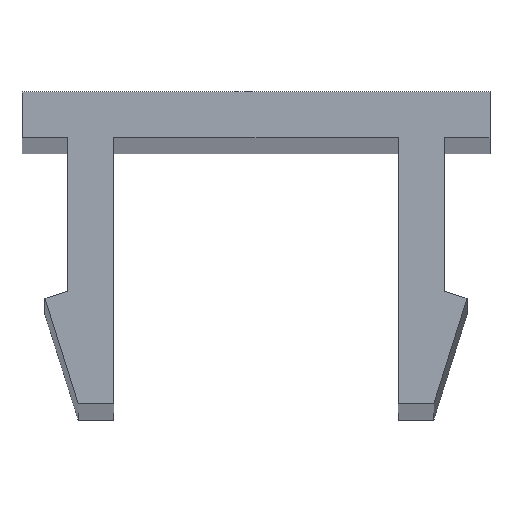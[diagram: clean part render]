
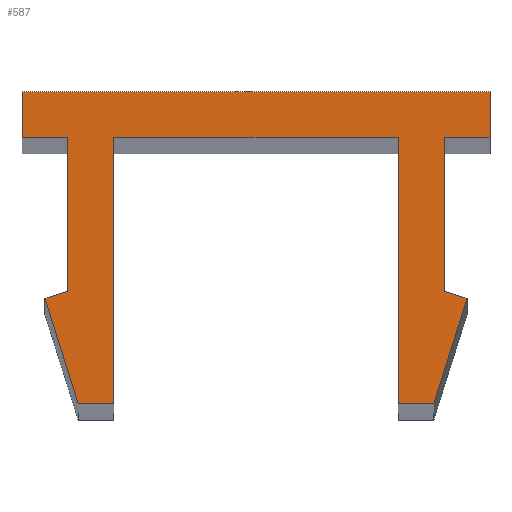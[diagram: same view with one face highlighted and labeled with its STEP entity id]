
A CAD part, top view. The second image highlights one B-rep face of the part: STEP entity #587.
In plain terms, the highlighted planar face has unit normal (0, 0, 1).
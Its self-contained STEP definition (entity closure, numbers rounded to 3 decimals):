
#59=CARTESIAN_POINT('',(-17.959,9.486,200.0));
#60=VERTEX_POINT('',#59);
#67=CARTESIAN_POINT('',(-17.459,9.644,200.0));
#68=VERTEX_POINT('',#67);
#69=CARTESIAN_POINT('',(-17.959,9.486,200.0));
#70=DIRECTION('',(0.954,0.301,0.0));
#71=VECTOR('',#70,0.524);
#72=LINE('',#69,#71);
#73=EDGE_CURVE('',#60,#68,#72,.T.);
#99=CARTESIAN_POINT('',(-9.259,9.644,200.0));
#100=VERTEX_POINT('',#99);
#107=CARTESIAN_POINT('',(-8.759,9.486,200.0));
#108=VERTEX_POINT('',#107);
#109=CARTESIAN_POINT('',(-9.259,9.644,200.0));
#110=DIRECTION('',(0.954,-0.301,0.0));
#111=VECTOR('',#110,0.524);
#112=LINE('',#109,#111);
#113=EDGE_CURVE('',#100,#108,#112,.T.);
#138=CARTESIAN_POINT('',(-9.259,12.986,200.0));
#139=VERTEX_POINT('',#138);
#146=CARTESIAN_POINT('',(-9.259,12.986,200.0));
#147=DIRECTION('',(0.0,-1.0,0.0));
#148=VECTOR('',#147,3.342);
#149=LINE('',#146,#148);
#150=EDGE_CURVE('',#139,#100,#149,.T.);
#162=CARTESIAN_POINT('',(-17.459,12.986,200.0));
#163=VERTEX_POINT('',#162);
#170=CARTESIAN_POINT('',(-18.459,12.986,200.0));
#171=VERTEX_POINT('',#170);
#172=CARTESIAN_POINT('',(-17.459,12.986,200.0));
#173=DIRECTION('',(-1.0,0.0,0.0));
#174=VECTOR('',#173,1.0);
#175=LINE('',#172,#174);
#176=EDGE_CURVE('',#163,#171,#175,.T.);
#202=CARTESIAN_POINT('',(-10.259,12.986,200.0));
#203=VERTEX_POINT('',#202);
#210=CARTESIAN_POINT('',(-16.459,12.986,200.0));
#211=VERTEX_POINT('',#210);
#212=CARTESIAN_POINT('',(-10.259,12.986,200.0));
#213=DIRECTION('',(-1.0,0.0,0.0));
#214=VECTOR('',#213,6.2);
#215=LINE('',#212,#214);
#216=EDGE_CURVE('',#203,#211,#215,.T.);
#249=CARTESIAN_POINT('',(-8.259,12.986,200.0));
#250=VERTEX_POINT('',#249);
#257=CARTESIAN_POINT('',(-8.259,12.986,200.0));
#258=DIRECTION('',(-1.0,0.0,0.0));
#259=VECTOR('',#258,1.);
#260=LINE('',#257,#259);
#261=EDGE_CURVE('',#250,#139,#260,.T.);
#271=CARTESIAN_POINT('',(-18.459,13.986,200.0));
#272=VERTEX_POINT('',#271);
#273=CARTESIAN_POINT('',(-8.259,13.986,200.0));
#274=VERTEX_POINT('',#273);
#275=CARTESIAN_POINT('',(-18.459,13.986,200.0));
#276=DIRECTION('',(1.0,0.0,0.0));
#277=VECTOR('',#276,10.2);
#278=LINE('',#275,#277);
#279=EDGE_CURVE('',#272,#274,#278,.T.);
#311=CARTESIAN_POINT('',(-8.259,13.986,200.0));
#312=DIRECTION('',(0.0,-1.0,0.0));
#313=VECTOR('',#312,1.);
#314=LINE('',#311,#313);
#315=EDGE_CURVE('',#274,#250,#314,.T.);
#333=CARTESIAN_POINT('',(-18.459,12.986,200.0));
#334=DIRECTION('',(0.0,1.0,0.0));
#335=VECTOR('',#334,1.);
#336=LINE('',#333,#335);
#337=EDGE_CURVE('',#171,#272,#336,.T.);
#356=CARTESIAN_POINT('',(-17.459,9.644,200.0));
#357=DIRECTION('',(0.0,1.0,0.0));
#358=VECTOR('',#357,3.342);
#359=LINE('',#356,#358);
#360=EDGE_CURVE('',#68,#163,#359,.T.);
#377=CARTESIAN_POINT('',(-16.459,7.186,200.0));
#378=VERTEX_POINT('',#377);
#379=CARTESIAN_POINT('',(-16.459,12.986,200.0));
#380=DIRECTION('',(0.0,-1.0,0.0));
#381=VECTOR('',#380,5.8);
#382=LINE('',#379,#381);
#383=EDGE_CURVE('',#211,#378,#382,.T.);
#408=CARTESIAN_POINT('',(-17.234,7.186,200.0));
#409=VERTEX_POINT('',#408);
#410=CARTESIAN_POINT('',(-16.459,7.186,200.0));
#411=DIRECTION('',(-1.0,0.0,0.0));
#412=VECTOR('',#411,0.775);
#413=LINE('',#410,#412);
#414=EDGE_CURVE('',#378,#409,#413,.T.);
#439=CARTESIAN_POINT('',(-17.234,7.186,200.0));
#440=DIRECTION('',(-0.301,0.954,0.0));
#441=VECTOR('',#440,2.412);
#442=LINE('',#439,#441);
#443=EDGE_CURVE('',#409,#60,#442,.T.);
#461=CARTESIAN_POINT('',(-9.485,7.186,200.0));
#462=VERTEX_POINT('',#461);
#463=CARTESIAN_POINT('',(-10.259,7.186,200.0));
#464=VERTEX_POINT('',#463);
#465=CARTESIAN_POINT('',(-9.485,7.186,200.0));
#466=DIRECTION('',(-1.0,0.0,0.0));
#467=VECTOR('',#466,0.775);
#468=LINE('',#465,#467);
#469=EDGE_CURVE('',#462,#464,#468,.T.);
#501=CARTESIAN_POINT('',(-10.259,7.186,200.0));
#502=DIRECTION('',(0.0,1.0,0.0));
#503=VECTOR('',#502,5.8);
#504=LINE('',#501,#503);
#505=EDGE_CURVE('',#464,#203,#504,.T.);
#523=CARTESIAN_POINT('',(-8.759,9.486,200.0));
#524=DIRECTION('',(-0.301,-0.954,0.0));
#525=VECTOR('',#524,2.412);
#526=LINE('',#523,#525);
#527=EDGE_CURVE('',#108,#462,#526,.T.);
#564=CARTESIAN_POINT('',(-9.115,8.799,200.0));
#565=DIRECTION('',(0.0,0.0,1.0));
#566=DIRECTION('',(1.0,0.0,0.0));
#567=AXIS2_PLACEMENT_3D('',#564,#565,#566);
#568=PLANE('',#567);
#569=ORIENTED_EDGE('',*,*,#527,.F.);
#570=ORIENTED_EDGE('',*,*,#113,.F.);
#571=ORIENTED_EDGE('',*,*,#150,.F.);
#572=ORIENTED_EDGE('',*,*,#261,.F.);
#573=ORIENTED_EDGE('',*,*,#315,.F.);
#574=ORIENTED_EDGE('',*,*,#279,.F.);
#575=ORIENTED_EDGE('',*,*,#337,.F.);
#576=ORIENTED_EDGE('',*,*,#176,.F.);
#577=ORIENTED_EDGE('',*,*,#360,.F.);
#578=ORIENTED_EDGE('',*,*,#73,.F.);
#579=ORIENTED_EDGE('',*,*,#443,.F.);
#580=ORIENTED_EDGE('',*,*,#414,.F.);
#581=ORIENTED_EDGE('',*,*,#383,.F.);
#582=ORIENTED_EDGE('',*,*,#216,.F.);
#583=ORIENTED_EDGE('',*,*,#505,.F.);
#584=ORIENTED_EDGE('',*,*,#469,.F.);
#585=EDGE_LOOP('',(#569,#570,#571,#572,#573,#574,#575,#576,#577,#578,#579,#580,#581,#582,#583,#584));
#586=FACE_OUTER_BOUND('',#585,.T.);
#587=ADVANCED_FACE('',(#586),#568,.T.);
